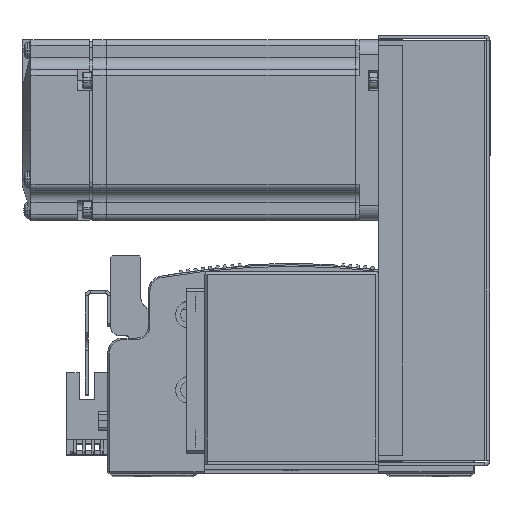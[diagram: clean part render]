
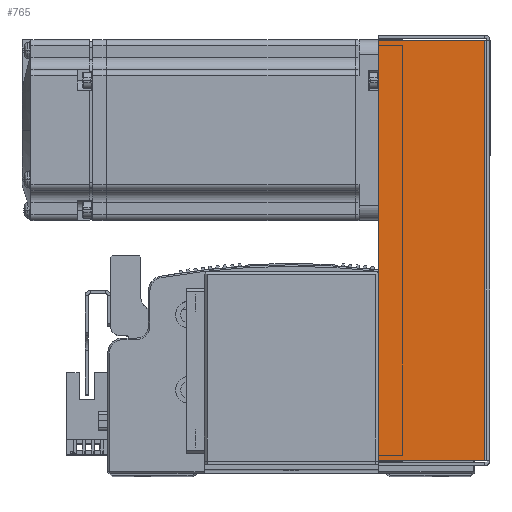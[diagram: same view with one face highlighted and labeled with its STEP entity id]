
A CAD part, top view. The second image highlights one B-rep face of the part: STEP entity #765.
In plain terms, the highlighted planar face has unit normal (0, 0, 1) as drawn and (0, 0, -1) by its records, which use the part's own axes.
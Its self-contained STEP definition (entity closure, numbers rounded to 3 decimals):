
#765 = ADVANCED_FACE ( 'NONE', ( #32402 ), #50184, .F. ) ;
#8967 = AXIS2_PLACEMENT_3D ( 'NONE', #50244, #50257, #50245 ) ;
#12816 = CARTESIAN_POINT ( 'NONE',  ( -69.793, 36., -33.5 ) ) ;
#12834 = CARTESIAN_POINT ( 'NONE',  ( -69.793, 0.737, -33.5 ) ) ;
#12853 = CARTESIAN_POINT ( 'NONE',  ( 69.793, 0.737, -33.5 ) ) ;
#12932 = CARTESIAN_POINT ( 'NONE',  ( 69.793, 36., -33.5 ) ) ;
#17528 = VECTOR ( 'NONE', #37475, 1000. ) ;
#17529 = VECTOR ( 'NONE', #37476, 1000. ) ;
#17547 = LINE ( 'NONE', #37582, #17554 ) ;
#17554 = VECTOR ( 'NONE', #37547, 1000. ) ;
#17580 = LINE ( 'NONE', #37486, #17529 ) ;
#17582 = LINE ( 'NONE', #37444, #17528 ) ;
#17583 = VECTOR ( 'NONE', #37530, 1000. ) ;
#17586 = LINE ( 'NONE', #37507, #17583 ) ;
#32402 = FACE_OUTER_BOUND ( 'NONE', #78920, .T. ) ;
#34882 = ORIENTED_EDGE ( 'NONE', *, *, #61163, .F. ) ;
#34902 = ORIENTED_EDGE ( 'NONE', *, *, #61171, .T. ) ;
#34919 = ORIENTED_EDGE ( 'NONE', *, *, #61183, .F. ) ;
#34940 = ORIENTED_EDGE ( 'NONE', *, *, #61158, .T. ) ;
#37444 = CARTESIAN_POINT ( 'NONE',  ( 0., 36., -33.5 ) ) ;
#37475 = DIRECTION ( 'NONE',  ( 1., 0., 0. ) ) ;
#37476 = DIRECTION ( 'NONE',  ( 0., 1., 0. ) ) ;
#37486 = CARTESIAN_POINT ( 'NONE',  ( 69.793, 0., -33.5 ) ) ;
#37507 = CARTESIAN_POINT ( 'NONE',  ( -69.793, 0., -33.5 ) ) ;
#37530 = DIRECTION ( 'NONE',  ( 0., 1., 0. ) ) ;
#37547 = DIRECTION ( 'NONE',  ( 1., 0., 0. ) ) ;
#37582 = CARTESIAN_POINT ( 'NONE',  ( 71.5, 0.737, -33.5 ) ) ;
#50184 = PLANE ( 'NONE',  #8967 ) ;
#50244 = CARTESIAN_POINT ( 'NONE',  ( 0., 0., -33.5 ) ) ;
#50245 = DIRECTION ( 'NONE',  ( 0., -1., 0. ) ) ;
#50257 = DIRECTION ( 'NONE',  ( 0., 0., 1. ) ) ;
#61158 = EDGE_CURVE ( 'NONE', #70683, #70747, #17582, .T. ) ;
#61163 = EDGE_CURVE ( 'NONE', #70699, #70747, #17580, .T. ) ;
#61171 = EDGE_CURVE ( 'NONE', #70729, #70683, #17586, .T. ) ;
#61183 = EDGE_CURVE ( 'NONE', #70729, #70699, #17547, .T. ) ;
#70683 = VERTEX_POINT ( 'NONE', #12816 ) ;
#70699 = VERTEX_POINT ( 'NONE', #12853 ) ;
#70729 = VERTEX_POINT ( 'NONE', #12834 ) ;
#70747 = VERTEX_POINT ( 'NONE', #12932 ) ;
#78920 = EDGE_LOOP ( 'NONE', ( #34919, #34902, #34940, #34882 ) ) ;
